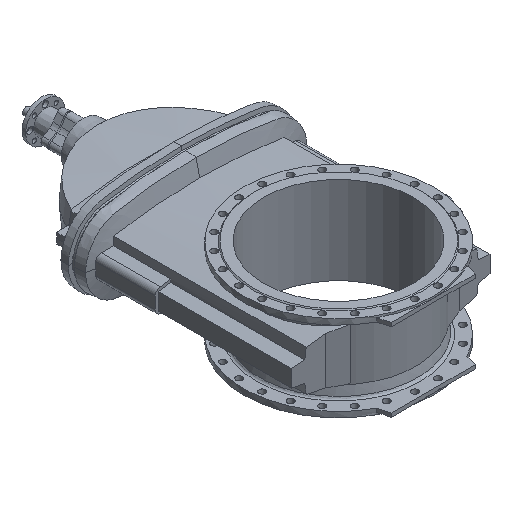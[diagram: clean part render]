
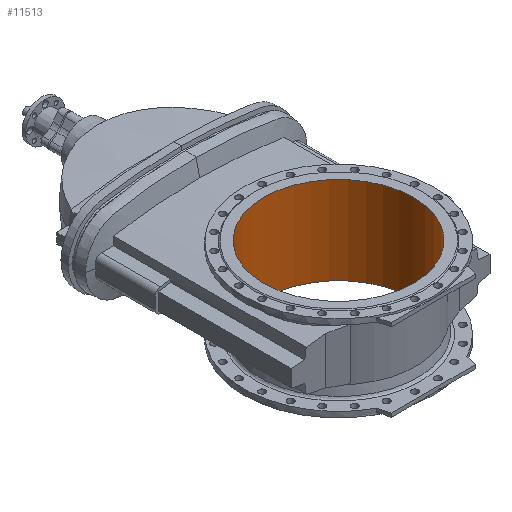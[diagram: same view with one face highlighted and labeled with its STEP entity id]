
A CAD part, isometric view. The second image highlights one B-rep face of the part: STEP entity #11513.
In plain terms, the highlighted cylindrical face has radius 400 mm (diameter 800 mm), a full revolution.
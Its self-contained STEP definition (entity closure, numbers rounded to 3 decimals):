
#2761 = FACE_OUTER_BOUND ( 'NONE', #11859, .T. ) ;
#2766 = FACE_OUTER_BOUND ( 'NONE', #11858, .T. ) ;
#2768 = CYLINDRICAL_SURFACE ( 'NONE', #4781, 400. ) ;
#4781 = AXIS2_PLACEMENT_3D ( 'NONE', #6069, #6070, #6068 ) ;
#6068 = DIRECTION ( 'NONE',  ( -1., 0., 0. ) ) ;
#6069 = CARTESIAN_POINT ( 'NONE',  ( 0., 0., 1766.129 ) ) ;
#6070 = DIRECTION ( 'NONE',  ( 0., 0., -1. ) ) ;
#6597 = VERTEX_POINT ( 'NONE', #7724 ) ;
#6619 = VERTEX_POINT ( 'NONE', #7737 ) ;
#7724 = CARTESIAN_POINT ( 'NONE',  ( 400., 0., -235. ) ) ;
#7737 = CARTESIAN_POINT ( 'NONE',  ( 400., 0., 235. ) ) ;
#8556 = EDGE_CURVE ( 'NONE', #6597, #6597, #12932, .T. ) ;
#8559 = EDGE_CURVE ( 'NONE', #6619, #6619, #12940, .T. ) ;
#11513 = ADVANCED_FACE ( 'NONE', ( #2761, #2766 ), #2768, .F. ) ;
#11858 = EDGE_LOOP ( 'NONE', ( #12147 ) ) ;
#11859 = EDGE_LOOP ( 'NONE', ( #12146 ) ) ;
#12146 = ORIENTED_EDGE ( 'NONE', *, *, #8559, .F. ) ;
#12147 = ORIENTED_EDGE ( 'NONE', *, *, #8556, .T. ) ;
#12932 = CIRCLE ( 'NONE', #13408, 400. ) ;
#12940 = CIRCLE ( 'NONE', #13412, 400. ) ;
#13408 = AXIS2_PLACEMENT_3D ( 'NONE', #14844, #14845, #14846 ) ;
#13412 = AXIS2_PLACEMENT_3D ( 'NONE', #14854, #14855, #14856 ) ;
#14844 = CARTESIAN_POINT ( 'NONE',  ( 0., 0., -235. ) ) ;
#14845 = DIRECTION ( 'NONE',  ( 0., 0., -1. ) ) ;
#14846 = DIRECTION ( 'NONE',  ( 1., 0., 0. ) ) ;
#14854 = CARTESIAN_POINT ( 'NONE',  ( 0., 0., 235. ) ) ;
#14855 = DIRECTION ( 'NONE',  ( 0., 0., -1. ) ) ;
#14856 = DIRECTION ( 'NONE',  ( 1., 0., 0. ) ) ;
